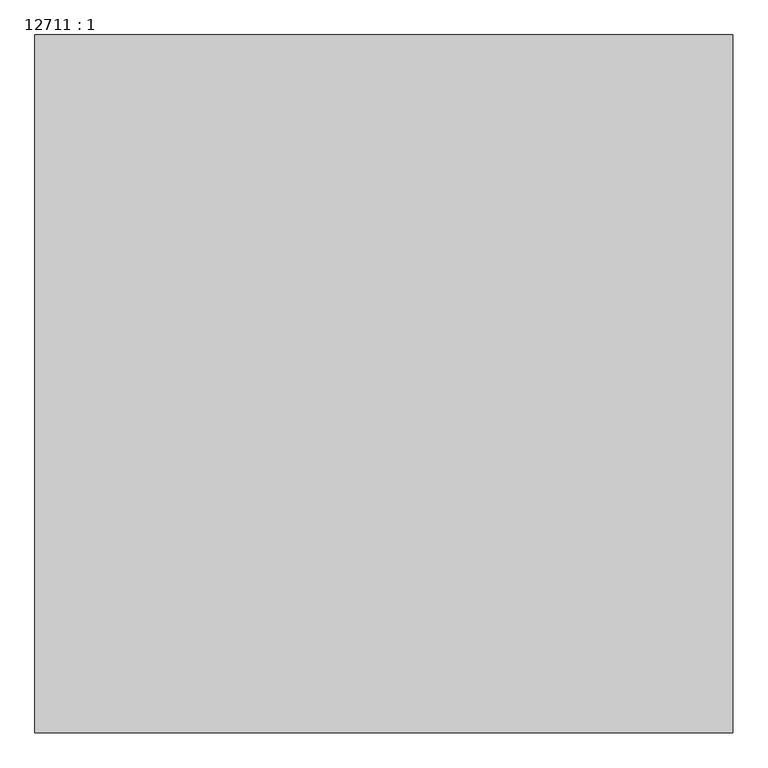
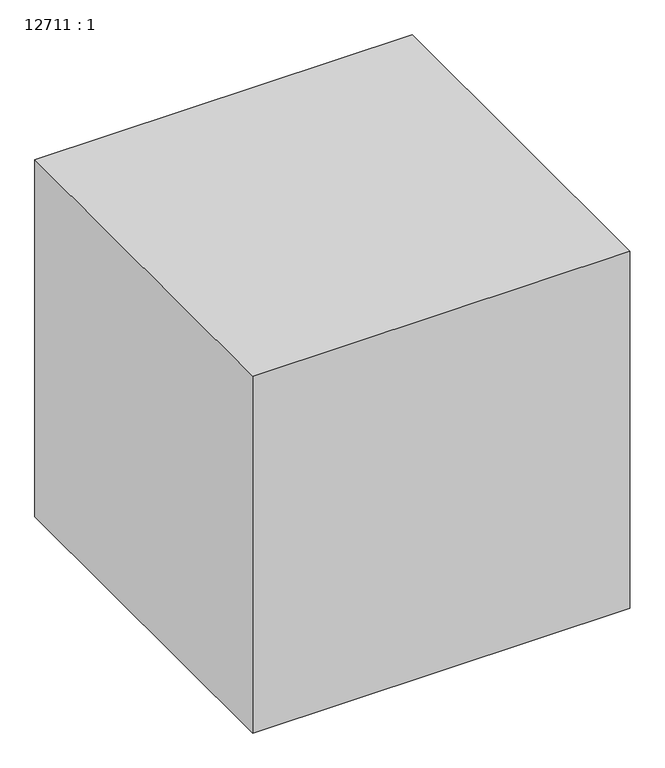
"""IFC4 building model written with IfcOpenShell, lengths in millimetres: proxy geometry, 12711 : 1."""

from ifc_helpers import new_model, si_unit, origin, origin_with_axes, place, context, project, spatial, polyline, outline, extrude, source, transform, mapped, element, save


def proxy_12711_1_b4b7b839(model_context):
    return source(origin(), model_context, "Body", "SweptSolid", [
        extrude(outline(polyline([(9692.0243292, -12664.7705528), (9692.0243292, -13664.7705528), (8692.0243292, -13664.7705528), (8692.0243292, -12664.7705528), (9692.0243292, -12664.7705528)])), origin_with_axes(), (0.0, 0.0, 1.0), 1000.0),
    ])


if __name__ == "__main__":
    model = new_model("IFC4")
    model_context = context("Model", 3, world=origin())
    ifc_project = project(units=[si_unit("LENGTHUNIT", "METRE", prefix="MILLI")], contexts=[model_context])
    site = spatial("IfcSite", under=ifc_project)
    building = spatial("IfcBuilding", under=site)
    placement = place(None, origin())
    proxy_12711_1_shape = proxy_12711_1_b4b7b839(model_context)
    element("IfcBuildingElementProxy", 1, Name="12711 : 1", ObjectType="12711 : 1", at=placement, inside=building, context=model_context, shape_type="MappedRepresentation", body=[
        mapped(proxy_12711_1_shape, transform((0.0, 0.0, 0.0), x_axis=(1.0, 0.0, 0.0), y_axis=(0.0, 1.0, 0.0), z_axis=(0.0, 0.0, 1.0))),
    ])
    save(model, "model.ifc")
